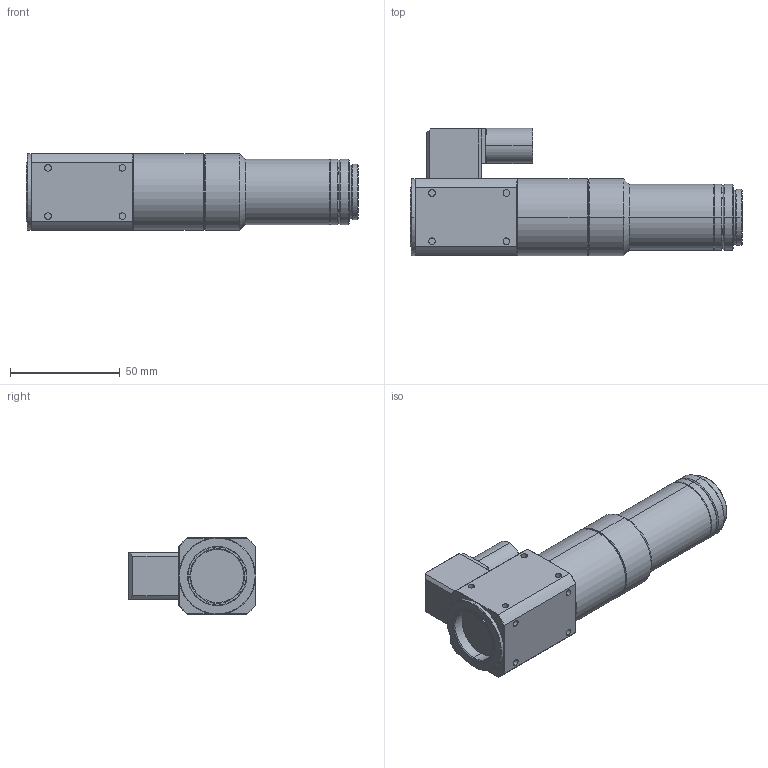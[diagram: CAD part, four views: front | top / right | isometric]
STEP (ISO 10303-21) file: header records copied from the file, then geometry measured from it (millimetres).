
FILE_DESCRIPTION (( 'STEP AP214' ), '1' );
FILE_NAME ('VS-MS05N.STEP', '2019-07-30T00:55:05', ( '' ), ( '' ), 'SwSTEP 2.0', 'SolidWorks 2018', '' );
FILE_SCHEMA (( 'AUTOMOTIVE_DESIGN' ));
Length unit declared in the file: millimetre
Products named in the file (1): VS-MS05N
Bounding box: 151.5 x 58 x 35 mm (x, y, z)
Volume: 154849.7 mm3; surface area: 23654.8 mm2
Topology: 1 solids, 1 shells, 242 faces, 542 edges, 330 vertices
Faces by surface type: plane 116, cylinder 68, cone 50, torus 8
Entity records: 6720 total; most frequent: CARTESIAN_POINT 1223, DIRECTION 1190, ORIENTED_EDGE 1084, EDGE_CURVE 542, AXIS2_PLACEMENT_3D 441, VERTEX_POINT 330, VECTOR 308, LINE 308
